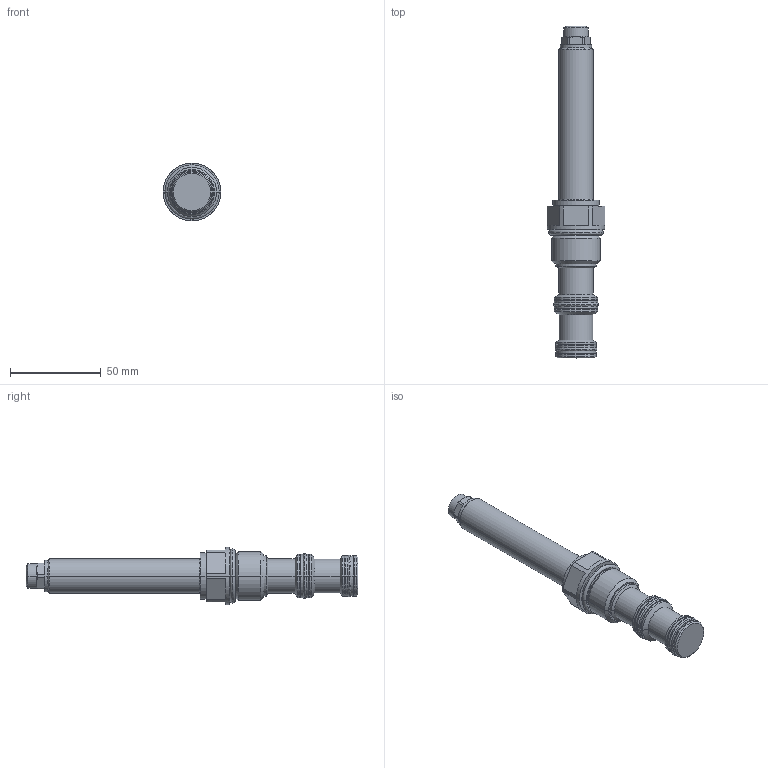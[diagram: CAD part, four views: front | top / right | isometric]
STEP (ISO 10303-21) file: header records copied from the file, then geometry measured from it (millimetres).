
FILE_DESCRIPTION((''),'2;1');
FILE_NAME('PRT0002','2009-03-02T',('JCS'),(''),'PRO/ENGINEER BY PARAMETRIC TECHNOLOGY CORPORATION, 2008010','PRO/ENGINEER BY PARAMETRIC TECHNOLOGY CORPORATION, 2008010','');
FILE_SCHEMA(('CONFIG_CONTROL_DESIGN'));
Length unit declared in the file: inch
Products named in the file (1): PRT0002
Bounding box: 31.75 x 182.96 x 31.75 mm (x, y, z)
Volume: 46190.4 mm3; surface area: 21656.9 mm2
Topology: 4 solids, 5 shells, 198 faces, 426 edges, 248 vertices
Faces by surface type: cylinder 62, plane 42, cone 42, torus 28, revolution 24
Entity records: 5980 total; most frequent: CARTESIAN_POINT 1570, DIRECTION 984, ORIENTED_EDGE 852, EDGE_CURVE 426, AXIS2_PLACEMENT_3D 414, VERTEX_POINT 248, CIRCLE 240, EDGE_LOOP 214
